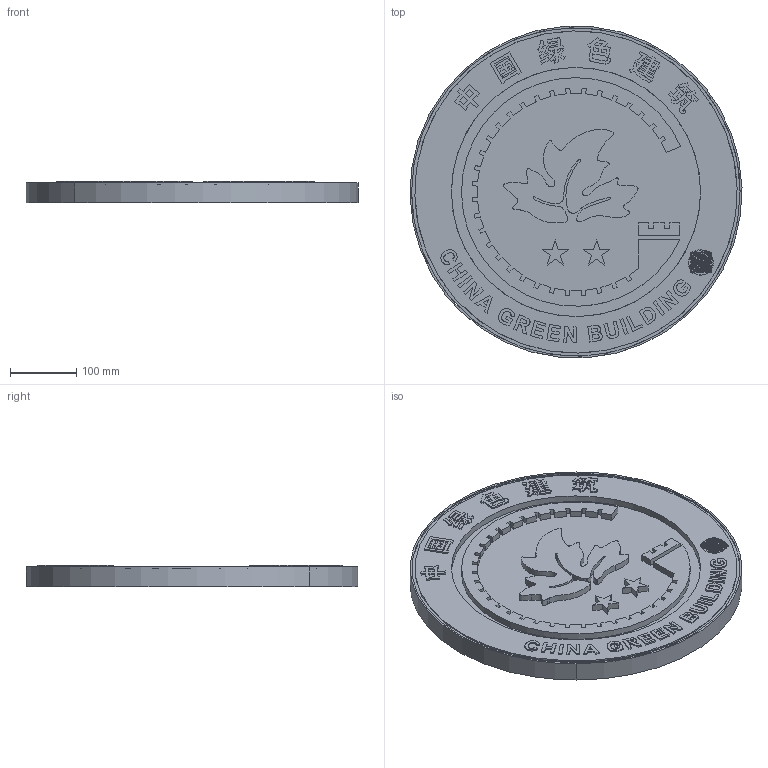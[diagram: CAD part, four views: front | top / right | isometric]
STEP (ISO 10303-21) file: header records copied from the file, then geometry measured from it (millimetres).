
FILE_DESCRIPTION(/* description */ (''),/* implementation_level */ '2;1');
FILE_NAME(/* name */ '二星（~1',/* time_stamp */ '2021-05-12T10:48:02+08:00',/* author */ (''),/* organization */ (''),/* preprocessor_version */ 'ST-DEVELOPER v15',/* originating_system */ '',/* authorisation */ '');
FILE_SCHEMA (('AUTOMOTIVE_DESIGN'));
Length unit declared in the file: millimetre
Products named in the file (1): Document
Bounding box: 499.79 x 498.89 x 32.25 mm (x, y, z)
Volume: 5131940.2 mm3; surface area: 816787.6 mm2
Topology: 292 solids, 292 shells, 2266 faces, 5046 edges, 3364 vertices
Faces by surface type: bspline 1463, plane 803
Entity records: 80445 total; most frequent: CARTESIAN_POINT 45245, ORIENTED_EDGE 10092, EDGE_CURVE 5046, B_SPLINE_CURVE_WITH_KNOTS 5046, VERTEX_POINT 3364, EDGE_LOOP 2308, ADVANCED_FACE 2266, FACE_OUTER_BOUND 2266
